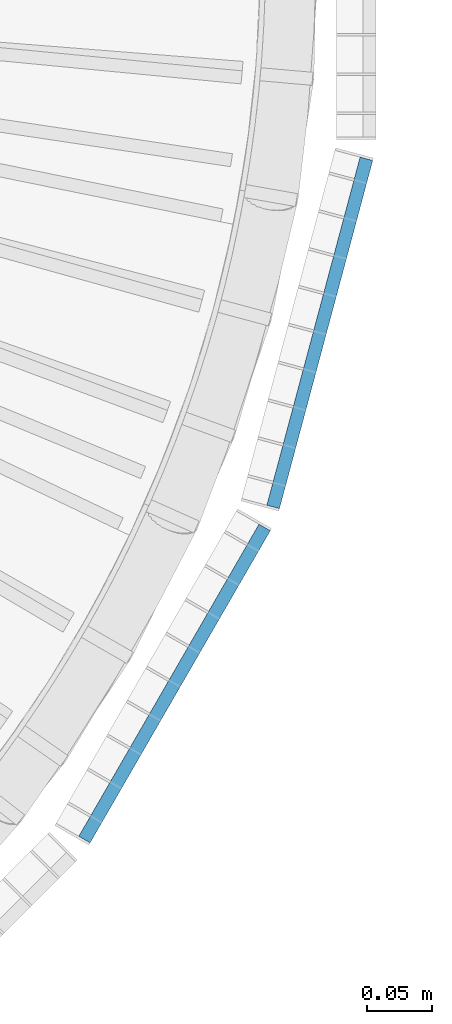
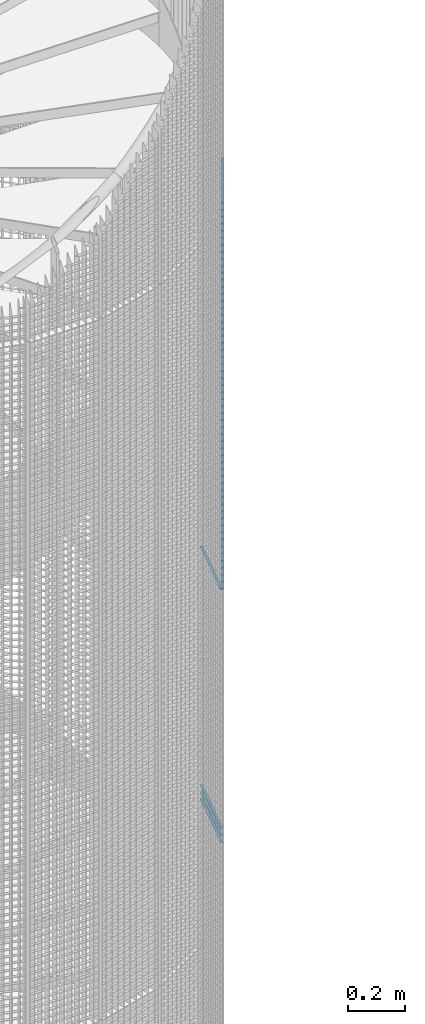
# One storey, part 248 of 1148: 60 beams, 2 elements without a shape of their own.
"""IFC2X3 building model written with IfcOpenShell, lengths in millimetres."""

import ifcopenshell
import ifcopenshell.guid

model = None  # the IFC model being written
_history = None  # IfcOwnerHistory: only IFC2X3 demands one
_inside = {}  # id of a spatial element -> (the spatial element, [elements in it])
_under = {}  # id of a project, library or spatial element -> (it, [spatial elements below it])
_declared = {}  # id of a project -> (the project, [libraries it declares])
_typed = {}  # id of a type object -> (the type object, [elements of that type])
_made_of = {}  # id of a material, layer set ... -> (it, [elements and type objects made of it])


def new_model(schema):
    """Start an empty IFC model of exactly this schema.

    Asked for "IFC4X3", IfcOpenShell would pick the latest addendum, in which some entities
    have other attributes; the version numbers below select the first issue.
    IFC2X3 requires an IfcOwnerHistory on every rooted entity: one is made here for all.
    """
    global model, _history
    if schema == "IFC4X3":
        model = ifcopenshell.file(schema_version=(4, 3, 0, 0))
    else:
        model = ifcopenshell.file(schema=schema)
    _inside.clear()
    _under.clear()
    _declared.clear()
    _typed.clear()
    _made_of.clear()
    _history = None
    if model.schema == "IFC2X3":
        org = make("IfcOrganization", Name="unknown")
        user = make(
            "IfcPersonAndOrganization",
            ThePerson=make("IfcPerson", FamilyName="unknown"),
            TheOrganization=org,
        )
        app = make(
            "IfcApplication",
            ApplicationDeveloper=org,
            Version="unknown",
            ApplicationFullName="unknown",
            ApplicationIdentifier="unknown",
        )
        _history = make(
            "IfcOwnerHistory",
            OwningUser=user,
            OwningApplication=app,
            ChangeAction="ADDED",
            CreationDate=0,
        )
    return model


def make(cls, **values):
    """One entity of the class cls with the attributes given. An attribute that is None is left unset."""
    return model.create_entity(
        cls, **{name: value for name, value in values.items() if value is not None}
    )


def rooted(cls, **values):
    """An entity with a GlobalId (a new one), such as an element, a storey or a relation."""
    return make(cls, GlobalId=ifcopenshell.guid.new(), OwnerHistory=_history, **values)


def si_unit(unit_type, name, prefix=None):
    """IfcSIUnit, for example si_unit("LENGTHUNIT", "METRE", prefix="MILLI")."""
    return make("IfcSIUnit", UnitType=unit_type, Prefix=prefix, Name=name)


def assignment(units):
    """IfcUnitAssignment: the units of a project."""
    return None if units is None else make("IfcUnitAssignment", Units=units)


def point(xyz):
    """IfcCartesianPoint."""
    return None if xyz is None else make("IfcCartesianPoint", Coordinates=xyz)


def direction(xyz):
    """IfcDirection."""
    return None if xyz is None else make("IfcDirection", DirectionRatios=xyz)


def frame(location, z_axis=None, x_axis=None):
    """IfcAxis2Placement3D, a coordinate frame: its origin and axes. An axis left out is left unset."""
    return make(
        "IfcAxis2Placement3D",
        Location=point(location),
        Axis=direction(z_axis),
        RefDirection=direction(x_axis),
    )


def frame_2d(location, x_axis=None):
    """IfcAxis2Placement2D, a coordinate frame in the plane: its origin and x axis."""
    return make(
        "IfcAxis2Placement2D", Location=point(location), RefDirection=direction(x_axis)
    )


def origin_with_axes():
    """The frame at (0, 0, 0) with the z axis (0, 0, 1) and the x axis (1, 0, 0) written out."""
    return frame((0.0, 0.0, 0.0), z_axis=(0.0, 0.0, 1.0), x_axis=(1.0, 0.0, 0.0))


def origin_2d_with_axis():
    """The frame at (0, 0) in the plane with the x axis (1, 0) written out."""
    return frame_2d((0.0, 0.0), x_axis=(1.0, 0.0))


def place(relative_to, where):
    """IfcLocalPlacement: puts the frame where relative to a parent placement (None: the world)."""
    return make(
        "IfcLocalPlacement", PlacementRelTo=relative_to, RelativePlacement=where
    )


def context(
    kind, dimensions, precision=None, world=None, true_north=None, identifier=None
):
    """IfcGeometricRepresentationContext, for example the 3D "Model" context."""
    return make(
        "IfcGeometricRepresentationContext",
        ContextIdentifier=identifier,
        ContextType=kind,
        CoordinateSpaceDimension=dimensions,
        Precision=precision,
        WorldCoordinateSystem=world,
        TrueNorth=true_north,
    )


def subcontext(parent, identifier, kind, view, scale=None):
    """IfcGeometricRepresentationSubContext, for example "Body" below "Model"."""
    return make(
        "IfcGeometricRepresentationSubContext",
        ContextIdentifier=identifier,
        ContextType=kind,
        ParentContext=parent,
        TargetScale=scale,
        TargetView=view,
    )


def project(units=None, contexts=None):
    """IfcProject with its units and contexts."""
    return rooted(
        "IfcProject",
        Name="project",
        RepresentationContexts=contexts,
        UnitsInContext=assignment(units),
    )


def spatial(cls, under=None, at=None, **own):
    """A site, building, storey or space (cls), placed at a placement, below another one or the project."""
    s = rooted(cls, ObjectPlacement=at, **own)
    if under is not None:
        _under.setdefault(under.id(), (under, []))[1].append(s)
    return s


def profile(cls, at=None, kind="AREA", **sizes):
    """A parametric profile (cls). Its sizes go by their IFC names, for example OverallWidth=200.0."""
    return make(cls, ProfileType=kind, Position=at, **sizes)


def rectangle(**sizes):
    """IfcRectangleProfileDef."""
    return profile("IfcRectangleProfileDef", **sizes)


def extrude(swept, where, along, depth):
    """IfcExtrudedAreaSolid: the profile swept, set in the frame where, extruded along a direction by depth."""
    return make(
        "IfcExtrudedAreaSolid",
        SweptArea=swept,
        Position=where,
        ExtrudedDirection=direction(along),
        Depth=depth,
    )


def shape(context_of_items, identifier, shape_type, items):
    """IfcShapeRepresentation: the items that make up one representation, for example the "Body"."""
    return make(
        "IfcShapeRepresentation",
        ContextOfItems=context_of_items,
        RepresentationIdentifier=identifier,
        RepresentationType=shape_type,
        Items=items,
    )


def material(Name=None, Category=None):
    """IfcMaterial."""
    return make("IfcMaterial", Name=Name, Category=Category)


def made_of(thing, what):
    """Note that an element or type object is made of a material, layer set ...; save() writes the relation."""
    if what is not None:
        _made_of.setdefault(what.id(), (what, []))[1].append(thing)
    return thing


def type_object(cls, material=None, **own):
    """A type object (cls), such as IfcWallType, which elements share."""
    return made_of(rooted(cls, **own), material)


def element(
    cls,
    number,
    at=None,
    inside=None,
    cuts=None,
    type_object=None,
    material=None,
    context=None,
    identifier="Body",
    shape_type=None,
    held_by="IfcProductDefinitionShape",
    body=None,
    shapes=None,
    **own,
):
    """One element of the class cls, such as IfcWall. Its Tag is "e" and its number.

    at: its placement. inside: the storey or other place that contains it. cuts: it is an
    opening in that element (IfcRelVoidsElement). A single representation is given by context,
    identifier, shape_type and body (its items); several are given by shapes. held_by: the class
    of the entity that holds the representations. save() writes the other relations.
    """
    e = rooted(cls, Tag="e%d" % number, ObjectPlacement=at, **own)
    if body is not None:
        shapes = [shape(context, identifier, shape_type, body)]
    if shapes is not None:
        e.Representation = make(held_by, Representations=shapes)
    if inside is not None:
        _inside.setdefault(inside.id(), (inside, []))[1].append(e)
    if cuts is not None:
        rooted(
            "IfcRelVoidsElement", RelatingBuildingElement=cuts, RelatedOpeningElement=e
        )
    if type_object is not None:
        _typed.setdefault(type_object.id(), (type_object, []))[1].append(e)
    return made_of(e, material)


def aggregate(whole, parts):
    """IfcRelAggregates: a whole, such as a stair, and the parts it consists of."""
    return rooted("IfcRelAggregates", RelatingObject=whole, RelatedObjects=parts)


def save(model, path):
    """Write the relations noted so far, then the file.

    IfcRelAggregates (storeys below a building ...), IfcRelContainedInSpatialStructure (elements
    in a storey), IfcRelDefinesByType, IfcRelAssociatesMaterial and IfcRelDeclares: one each for
    every whole, place, type object, material and project.
    """
    for whole, parts in _under.values():
        aggregate(whole, parts)
    for where, things in _inside.values():
        rooted(
            "IfcRelContainedInSpatialStructure",
            RelatedElements=things,
            RelatingStructure=where,
        )
    for kind, things in _typed.values():
        rooted("IfcRelDefinesByType", RelatedObjects=things, RelatingType=kind)
    for what, things in _made_of.values():
        rooted("IfcRelAssociatesMaterial", RelatedObjects=things, RelatingMaterial=what)
    for by, libraries in _declared.values():
        rooted("IfcRelDeclares", RelatingContext=by, RelatedDefinitions=libraries)
    model.write(path)


model = new_model("IFC2X3")

# Units and contexts
model_context = context("Model", 3, precision=1e-05, world=origin_with_axes())
body_context = subcontext(model_context, "Body", "Model", "MODEL_VIEW")
ifc_project = project(units=[si_unit("LENGTHUNIT", "METRE", prefix="MILLI"), si_unit("AREAUNIT", "SQUARE_METRE"), si_unit("VOLUMEUNIT", "CUBIC_METRE"), si_unit("MASSUNIT", "GRAM", prefix="KILO"), si_unit("TIMEUNIT", "SECOND"), si_unit("PLANEANGLEUNIT", "RADIAN"), si_unit("SOLIDANGLEUNIT", "STERADIAN"), si_unit("THERMODYNAMICTEMPERATUREUNIT", "DEGREE_CELSIUS"), si_unit("LUMINOUSINTENSITYUNIT", "LUMEN")], contexts=[model_context])

# Site, building, storey
site_placement = place(None, origin_with_axes())
site = spatial("IfcSite", under=ifc_project, at=site_placement, Name="Undefined", CompositionType="ELEMENT")
building_placement = place(site_placement, origin_with_axes())
building = spatial("IfcBuilding", under=site, at=building_placement, Name="Undefined", CompositionType="ELEMENT")
storey_placement = place(building_placement, origin_with_axes())
storey = spatial("IfcBuildingStorey", under=building, at=storey_placement, Name="Undefined", CompositionType="ELEMENT", Elevation=0.0)

# Assembly, beams
assembly_1_placement = place(storey_placement, origin_with_axes())
assembly_1 = element("IfcElementAssembly", 1, at=assembly_1_placement, inside=storey, Name="BORDURE", AssemblyPlace="NOTDEFINED", PredefinedType="NOTDEFINED")
ifc_material = material(Name="STEEL/S235JR")
beam_type = type_object("IfcBeamType", Name="PL2*10", PredefinedType="NOTDEFINED")
beam_1_placement = place(assembly_1_placement, frame((1039.82309522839, -421.483733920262, 3090.0), z_axis=(0.965925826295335, -0.258819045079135, 0.0), x_axis=(0.258819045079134, 0.965925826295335, 0.0)))
beam_1 = element("IfcBeam", 2, at=beam_1_placement, type_object=beam_type, material=ifc_material, Name="ENTRETOISE", context=body_context, shape_type="SweptSolid", body=[
    extrude(rectangle(XDim=2.0, YDim=10.0, at=origin_2d_with_axis()), frame((275.999999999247, 9.09494701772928e-13, 1.53210777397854e-14), z_axis=(-1.0, 0.0, 0.0), x_axis=(0.0, -1.0, 0.0)), (0.0, 0.0, 1.0), 276.0),
])
beam_2_placement = place(assembly_1_placement, frame((1039.82309522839, -421.483733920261, 3060.0), z_axis=(0.965925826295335, -0.258819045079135, 0.0), x_axis=(0.258819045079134, 0.965925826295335, 0.0)))
beam_2 = element("IfcBeam", 3, at=beam_2_placement, type_object=beam_type, material=ifc_material, Name="ENTRETOISE", context=body_context, shape_type="SweptSolid", body=[
    extrude(rectangle(XDim=2.0, YDim=10.0, at=origin_2d_with_axis()), frame((275.999999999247, 9.09494701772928e-13, 1.53210777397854e-14), z_axis=(-1.0, 0.0, 0.0), x_axis=(0.0, -1.0, 0.0)), (0.0, 0.0, 1.0), 276.0),
])
beam_3_placement = place(assembly_1_placement, frame((1039.82309522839, -421.483733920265, 4110.0), z_axis=(0.965925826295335, -0.258819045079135, 0.0), x_axis=(0.258819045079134, 0.965925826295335, 0.0)))
beam_3 = element("IfcBeam", 4, at=beam_3_placement, type_object=beam_type, material=ifc_material, Name="ENTRETOISE", context=body_context, shape_type="SweptSolid", body=[
    extrude(rectangle(XDim=2.0, YDim=10.0, at=origin_2d_with_axis()), frame((275.999999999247, 9.09494701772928e-13, 1.53210777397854e-14), z_axis=(-1.0, 0.0, 0.0), x_axis=(0.0, -1.0, 0.0)), (0.0, 0.0, 1.0), 276.0),
])
beam_4_placement = place(assembly_1_placement, frame((1039.82309522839, -421.48373392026, 3030.0), z_axis=(0.965925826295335, -0.258819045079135, 0.0), x_axis=(0.258819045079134, 0.965925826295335, 0.0)))
beam_4 = element("IfcBeam", 5, at=beam_4_placement, type_object=beam_type, material=ifc_material, Name="ENTRETOISE", context=body_context, shape_type="SweptSolid", body=[
    extrude(rectangle(XDim=2.0, YDim=10.0, at=origin_2d_with_axis()), frame((275.999999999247, 9.09494701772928e-13, 1.53210777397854e-14), z_axis=(-1.0, 0.0, 0.0), x_axis=(0.0, -1.0, 0.0)), (0.0, 0.0, 1.0), 276.0),
])
aggregate(assembly_1, [beam_1, beam_2, beam_3, beam_4])

assembly_2_placement = place(storey_placement, origin_with_axes())
assembly_2 = element("IfcElementAssembly", 6, at=assembly_2_placement, inside=storey, Name="BORDURE", AssemblyPlace="NOTDEFINED", PredefinedType="NOTDEFINED")
beam_5_placement = place(assembly_2_placement, frame((895.303964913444, -676.248044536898, 5970.0), z_axis=(0.866025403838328, -0.49999999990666, 0.0), x_axis=(0.49999999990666, 0.866025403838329, 0.0)))
beam_5 = element("IfcBeam", 7, at=beam_5_placement, type_object=beam_type, material=ifc_material, Name="ENTRETOISE", context=body_context, shape_type="SweptSolid", body=[
    extrude(rectangle(XDim=2.0, YDim=10.0, at=origin_2d_with_axis()), frame((275.999999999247, 9.09494701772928e-13, 1.53210777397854e-14), z_axis=(-1.0, 0.0, 0.0), x_axis=(0.0, -1.0, 0.0)), (0.0, 0.0, 1.0), 276.0),
])
beam_6_placement = place(assembly_2_placement, frame((895.303964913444, -676.248044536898, 5940.0), z_axis=(0.866025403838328, -0.49999999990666, 0.0), x_axis=(0.49999999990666, 0.866025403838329, 0.0)))
beam_6 = element("IfcBeam", 8, at=beam_6_placement, type_object=beam_type, material=ifc_material, Name="ENTRETOISE", context=body_context, shape_type="SweptSolid", body=[
    extrude(rectangle(XDim=2.0, YDim=10.0, at=origin_2d_with_axis()), frame((275.999999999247, 9.09494701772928e-13, 1.53210777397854e-14), z_axis=(-1.0, 0.0, 0.0), x_axis=(0.0, -1.0, 0.0)), (0.0, 0.0, 1.0), 276.0),
])
beam_7_placement = place(assembly_2_placement, frame((895.303964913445, -676.248044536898, 5910.0), z_axis=(0.866025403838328, -0.49999999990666, 0.0), x_axis=(0.49999999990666, 0.866025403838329, 0.0)))
beam_7 = element("IfcBeam", 9, at=beam_7_placement, type_object=beam_type, material=ifc_material, Name="ENTRETOISE", context=body_context, shape_type="SweptSolid", body=[
    extrude(rectangle(XDim=2.0, YDim=10.0, at=origin_2d_with_axis()), frame((275.999999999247, 9.09494701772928e-13, 1.53210777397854e-14), z_axis=(-1.0, 0.0, 0.0), x_axis=(0.0, -1.0, 0.0)), (0.0, 0.0, 1.0), 276.0),
])
beam_8_placement = place(assembly_2_placement, frame((895.303964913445, -676.248044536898, 5880.0), z_axis=(0.866025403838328, -0.49999999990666, 0.0), x_axis=(0.49999999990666, 0.866025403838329, 0.0)))
beam_8 = element("IfcBeam", 10, at=beam_8_placement, type_object=beam_type, material=ifc_material, Name="ENTRETOISE", context=body_context, shape_type="SweptSolid", body=[
    extrude(rectangle(XDim=2.0, YDim=10.0, at=origin_2d_with_axis()), frame((275.999999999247, 9.09494701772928e-13, 1.53210777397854e-14), z_axis=(-1.0, 0.0, 0.0), x_axis=(0.0, -1.0, 0.0)), (0.0, 0.0, 1.0), 276.0),
])
beam_9_placement = place(assembly_2_placement, frame((895.303964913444, -676.248044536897, 5850.0), z_axis=(0.866025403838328, -0.49999999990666, 0.0), x_axis=(0.49999999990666, 0.866025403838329, 0.0)))
beam_9 = element("IfcBeam", 11, at=beam_9_placement, type_object=beam_type, material=ifc_material, Name="ENTRETOISE", context=body_context, shape_type="SweptSolid", body=[
    extrude(rectangle(XDim=2.0, YDim=10.0, at=origin_2d_with_axis()), frame((275.999999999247, 9.09494701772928e-13, 1.53210777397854e-14), z_axis=(-1.0, 0.0, 0.0), x_axis=(0.0, -1.0, 0.0)), (0.0, 0.0, 1.0), 276.0),
])
beam_10_placement = place(assembly_2_placement, frame((895.303964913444, -676.248044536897, 5820.0), z_axis=(0.866025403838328, -0.49999999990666, 0.0), x_axis=(0.49999999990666, 0.866025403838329, 0.0)))
beam_10 = element("IfcBeam", 12, at=beam_10_placement, type_object=beam_type, material=ifc_material, Name="ENTRETOISE", context=body_context, shape_type="SweptSolid", body=[
    extrude(rectangle(XDim=2.0, YDim=10.0, at=origin_2d_with_axis()), frame((275.999999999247, 9.09494701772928e-13, 1.53210777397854e-14), z_axis=(-1.0, 0.0, 0.0), x_axis=(0.0, -1.0, 0.0)), (0.0, 0.0, 1.0), 276.0),
])
beam_11_placement = place(assembly_2_placement, frame((895.303964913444, -676.248044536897, 5790.0), z_axis=(0.866025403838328, -0.49999999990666, 0.0), x_axis=(0.49999999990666, 0.866025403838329, 0.0)))
beam_11 = element("IfcBeam", 13, at=beam_11_placement, type_object=beam_type, material=ifc_material, Name="ENTRETOISE", context=body_context, shape_type="SweptSolid", body=[
    extrude(rectangle(XDim=2.0, YDim=10.0, at=origin_2d_with_axis()), frame((275.999999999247, 9.09494701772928e-13, 1.53210777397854e-14), z_axis=(-1.0, 0.0, 0.0), x_axis=(0.0, -1.0, 0.0)), (0.0, 0.0, 1.0), 276.0),
])
beam_12_placement = place(assembly_2_placement, frame((895.303964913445, -676.248044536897, 5760.0), z_axis=(0.866025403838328, -0.49999999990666, 0.0), x_axis=(0.49999999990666, 0.866025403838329, 0.0)))
beam_12 = element("IfcBeam", 14, at=beam_12_placement, type_object=beam_type, material=ifc_material, Name="ENTRETOISE", context=body_context, shape_type="SweptSolid", body=[
    extrude(rectangle(XDim=2.0, YDim=10.0, at=origin_2d_with_axis()), frame((275.999999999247, 9.09494701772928e-13, 1.53210777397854e-14), z_axis=(-1.0, 0.0, 0.0), x_axis=(0.0, -1.0, 0.0)), (0.0, 0.0, 1.0), 276.0),
])
beam_13_placement = place(assembly_2_placement, frame((895.303964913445, -676.248044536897, 5730.0), z_axis=(0.866025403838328, -0.49999999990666, 0.0), x_axis=(0.49999999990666, 0.866025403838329, 0.0)))
beam_13 = element("IfcBeam", 15, at=beam_13_placement, type_object=beam_type, material=ifc_material, Name="ENTRETOISE", context=body_context, shape_type="SweptSolid", body=[
    extrude(rectangle(XDim=2.0, YDim=10.0, at=origin_2d_with_axis()), frame((275.999999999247, 9.09494701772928e-13, 1.53210777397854e-14), z_axis=(-1.0, 0.0, 0.0), x_axis=(0.0, -1.0, 0.0)), (0.0, 0.0, 1.0), 276.0),
])
beam_14_placement = place(assembly_2_placement, frame((895.303964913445, -676.248044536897, 5700.0), z_axis=(0.866025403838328, -0.49999999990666, 0.0), x_axis=(0.49999999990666, 0.866025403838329, 0.0)))
beam_14 = element("IfcBeam", 16, at=beam_14_placement, type_object=beam_type, material=ifc_material, Name="ENTRETOISE", context=body_context, shape_type="SweptSolid", body=[
    extrude(rectangle(XDim=2.0, YDim=10.0, at=origin_2d_with_axis()), frame((275.999999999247, 9.09494701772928e-13, 1.53210777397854e-14), z_axis=(-1.0, 0.0, 0.0), x_axis=(0.0, -1.0, 0.0)), (0.0, 0.0, 1.0), 276.0),
])
beam_15_placement = place(assembly_2_placement, frame((895.303964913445, -676.248044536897, 5670.0), z_axis=(0.866025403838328, -0.49999999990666, 0.0), x_axis=(0.49999999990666, 0.866025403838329, 0.0)))
beam_15 = element("IfcBeam", 17, at=beam_15_placement, type_object=beam_type, material=ifc_material, Name="ENTRETOISE", context=body_context, shape_type="SweptSolid", body=[
    extrude(rectangle(XDim=2.0, YDim=10.0, at=origin_2d_with_axis()), frame((275.999999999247, 9.09494701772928e-13, 1.53210777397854e-14), z_axis=(-1.0, 0.0, 0.0), x_axis=(0.0, -1.0, 0.0)), (0.0, 0.0, 1.0), 276.0),
])
beam_16_placement = place(assembly_2_placement, frame((895.303964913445, -676.248044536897, 5640.0), z_axis=(0.866025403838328, -0.49999999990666, 0.0), x_axis=(0.49999999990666, 0.866025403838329, 0.0)))
beam_16 = element("IfcBeam", 18, at=beam_16_placement, type_object=beam_type, material=ifc_material, Name="ENTRETOISE", context=body_context, shape_type="SweptSolid", body=[
    extrude(rectangle(XDim=2.0, YDim=10.0, at=origin_2d_with_axis()), frame((275.999999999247, 9.09494701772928e-13, 1.53210777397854e-14), z_axis=(-1.0, 0.0, 0.0), x_axis=(0.0, -1.0, 0.0)), (0.0, 0.0, 1.0), 276.0),
])
beam_17_placement = place(assembly_2_placement, frame((895.303964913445, -676.248044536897, 5610.0), z_axis=(0.866025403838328, -0.49999999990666, 0.0), x_axis=(0.49999999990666, 0.866025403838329, 0.0)))
beam_17 = element("IfcBeam", 19, at=beam_17_placement, type_object=beam_type, material=ifc_material, Name="ENTRETOISE", context=body_context, shape_type="SweptSolid", body=[
    extrude(rectangle(XDim=2.0, YDim=10.0, at=origin_2d_with_axis()), frame((275.999999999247, 9.09494701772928e-13, 1.53210777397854e-14), z_axis=(-1.0, 0.0, 0.0), x_axis=(0.0, -1.0, 0.0)), (0.0, 0.0, 1.0), 276.0),
])
beam_18_placement = place(assembly_2_placement, frame((895.303964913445, -676.248044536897, 5580.0), z_axis=(0.866025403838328, -0.49999999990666, 0.0), x_axis=(0.49999999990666, 0.866025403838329, 0.0)))
beam_18 = element("IfcBeam", 20, at=beam_18_placement, type_object=beam_type, material=ifc_material, Name="ENTRETOISE", context=body_context, shape_type="SweptSolid", body=[
    extrude(rectangle(XDim=2.0, YDim=10.0, at=origin_2d_with_axis()), frame((275.999999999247, 9.09494701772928e-13, 1.53210777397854e-14), z_axis=(-1.0, 0.0, 0.0), x_axis=(0.0, -1.0, 0.0)), (0.0, 0.0, 1.0), 276.0),
])
beam_19_placement = place(assembly_2_placement, frame((895.303964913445, -676.248044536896, 5550.0), z_axis=(0.866025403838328, -0.49999999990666, 0.0), x_axis=(0.49999999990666, 0.866025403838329, 0.0)))
beam_19 = element("IfcBeam", 21, at=beam_19_placement, type_object=beam_type, material=ifc_material, Name="ENTRETOISE", context=body_context, shape_type="SweptSolid", body=[
    extrude(rectangle(XDim=2.0, YDim=10.0, at=origin_2d_with_axis()), frame((275.999999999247, 9.09494701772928e-13, 1.53210777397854e-14), z_axis=(-1.0, 0.0, 0.0), x_axis=(0.0, -1.0, 0.0)), (0.0, 0.0, 1.0), 276.0),
])
beam_20_placement = place(assembly_2_placement, frame((895.303964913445, -676.248044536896, 5520.0), z_axis=(0.866025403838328, -0.49999999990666, 0.0), x_axis=(0.49999999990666, 0.866025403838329, 0.0)))
beam_20 = element("IfcBeam", 22, at=beam_20_placement, type_object=beam_type, material=ifc_material, Name="ENTRETOISE", context=body_context, shape_type="SweptSolid", body=[
    extrude(rectangle(XDim=2.0, YDim=10.0, at=origin_2d_with_axis()), frame((275.999999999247, 9.09494701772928e-13, 1.53210777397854e-14), z_axis=(-1.0, 0.0, 0.0), x_axis=(0.0, -1.0, 0.0)), (0.0, 0.0, 1.0), 276.0),
])
beam_21_placement = place(assembly_2_placement, frame((895.303964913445, -676.248044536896, 5490.0), z_axis=(0.866025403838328, -0.49999999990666, 0.0), x_axis=(0.49999999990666, 0.866025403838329, 0.0)))
beam_21 = element("IfcBeam", 23, at=beam_21_placement, type_object=beam_type, material=ifc_material, Name="ENTRETOISE", context=body_context, shape_type="SweptSolid", body=[
    extrude(rectangle(XDim=2.0, YDim=10.0, at=origin_2d_with_axis()), frame((275.999999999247, 9.09494701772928e-13, 1.53210777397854e-14), z_axis=(-1.0, 0.0, 0.0), x_axis=(0.0, -1.0, 0.0)), (0.0, 0.0, 1.0), 276.0),
])
beam_22_placement = place(assembly_2_placement, frame((895.303964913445, -676.248044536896, 5460.0), z_axis=(0.866025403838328, -0.49999999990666, 0.0), x_axis=(0.49999999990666, 0.866025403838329, 0.0)))
beam_22 = element("IfcBeam", 24, at=beam_22_placement, type_object=beam_type, material=ifc_material, Name="ENTRETOISE", context=body_context, shape_type="SweptSolid", body=[
    extrude(rectangle(XDim=2.0, YDim=10.0, at=origin_2d_with_axis()), frame((275.999999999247, 9.09494701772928e-13, 1.53210777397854e-14), z_axis=(-1.0, 0.0, 0.0), x_axis=(0.0, -1.0, 0.0)), (0.0, 0.0, 1.0), 276.0),
])
beam_23_placement = place(assembly_2_placement, frame((895.303964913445, -676.248044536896, 5430.0), z_axis=(0.866025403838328, -0.49999999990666, 0.0), x_axis=(0.49999999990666, 0.866025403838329, 0.0)))
beam_23 = element("IfcBeam", 25, at=beam_23_placement, type_object=beam_type, material=ifc_material, Name="ENTRETOISE", context=body_context, shape_type="SweptSolid", body=[
    extrude(rectangle(XDim=2.0, YDim=10.0, at=origin_2d_with_axis()), frame((275.999999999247, 9.09494701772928e-13, 1.53210777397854e-14), z_axis=(-1.0, 0.0, 0.0), x_axis=(0.0, -1.0, 0.0)), (0.0, 0.0, 1.0), 276.0),
])
beam_24_placement = place(assembly_2_placement, frame((895.303964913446, -676.248044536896, 5400.0), z_axis=(0.866025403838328, -0.49999999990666, 0.0), x_axis=(0.49999999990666, 0.866025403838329, 0.0)))
beam_24 = element("IfcBeam", 26, at=beam_24_placement, type_object=beam_type, material=ifc_material, Name="ENTRETOISE", context=body_context, shape_type="SweptSolid", body=[
    extrude(rectangle(XDim=2.0, YDim=10.0, at=origin_2d_with_axis()), frame((275.999999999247, 9.09494701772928e-13, 1.53210777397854e-14), z_axis=(-1.0, 0.0, 0.0), x_axis=(0.0, -1.0, 0.0)), (0.0, 0.0, 1.0), 276.0),
])
beam_25_placement = place(assembly_2_placement, frame((895.303964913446, -676.248044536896, 5370.0), z_axis=(0.866025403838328, -0.49999999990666, 0.0), x_axis=(0.49999999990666, 0.866025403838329, 0.0)))
beam_25 = element("IfcBeam", 27, at=beam_25_placement, type_object=beam_type, material=ifc_material, Name="ENTRETOISE", context=body_context, shape_type="SweptSolid", body=[
    extrude(rectangle(XDim=2.0, YDim=10.0, at=origin_2d_with_axis()), frame((275.999999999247, 9.09494701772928e-13, 1.53210777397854e-14), z_axis=(-1.0, 0.0, 0.0), x_axis=(0.0, -1.0, 0.0)), (0.0, 0.0, 1.0), 276.0),
])
beam_26_placement = place(assembly_2_placement, frame((895.303964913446, -676.248044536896, 5340.0), z_axis=(0.866025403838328, -0.49999999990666, 0.0), x_axis=(0.49999999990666, 0.866025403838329, 0.0)))
beam_26 = element("IfcBeam", 28, at=beam_26_placement, type_object=beam_type, material=ifc_material, Name="ENTRETOISE", context=body_context, shape_type="SweptSolid", body=[
    extrude(rectangle(XDim=2.0, YDim=10.0, at=origin_2d_with_axis()), frame((275.999999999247, 9.09494701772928e-13, 1.53210777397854e-14), z_axis=(-1.0, 0.0, 0.0), x_axis=(0.0, -1.0, 0.0)), (0.0, 0.0, 1.0), 276.0),
])
beam_27_placement = place(assembly_2_placement, frame((895.303964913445, -676.248044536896, 5310.0), z_axis=(0.866025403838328, -0.49999999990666, 0.0), x_axis=(0.49999999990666, 0.866025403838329, 0.0)))
beam_27 = element("IfcBeam", 29, at=beam_27_placement, type_object=beam_type, material=ifc_material, Name="ENTRETOISE", context=body_context, shape_type="SweptSolid", body=[
    extrude(rectangle(XDim=2.0, YDim=10.0, at=origin_2d_with_axis()), frame((275.999999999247, 9.09494701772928e-13, 1.53210777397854e-14), z_axis=(-1.0, 0.0, 0.0), x_axis=(0.0, -1.0, 0.0)), (0.0, 0.0, 1.0), 276.0),
])
beam_28_placement = place(assembly_2_placement, frame((895.303964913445, -676.248044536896, 5280.0), z_axis=(0.866025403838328, -0.49999999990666, 0.0), x_axis=(0.49999999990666, 0.866025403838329, 0.0)))
beam_28 = element("IfcBeam", 30, at=beam_28_placement, type_object=beam_type, material=ifc_material, Name="ENTRETOISE", context=body_context, shape_type="SweptSolid", body=[
    extrude(rectangle(XDim=2.0, YDim=10.0, at=origin_2d_with_axis()), frame((275.999999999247, 9.09494701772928e-13, 1.53210777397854e-14), z_axis=(-1.0, 0.0, 0.0), x_axis=(0.0, -1.0, 0.0)), (0.0, 0.0, 1.0), 276.0),
])
beam_29_placement = place(assembly_2_placement, frame((895.303964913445, -676.248044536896, 5250.0), z_axis=(0.866025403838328, -0.49999999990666, 0.0), x_axis=(0.49999999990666, 0.866025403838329, 0.0)))
beam_29 = element("IfcBeam", 31, at=beam_29_placement, type_object=beam_type, material=ifc_material, Name="ENTRETOISE", context=body_context, shape_type="SweptSolid", body=[
    extrude(rectangle(XDim=2.0, YDim=10.0, at=origin_2d_with_axis()), frame((275.999999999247, 9.09494701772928e-13, 1.53210777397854e-14), z_axis=(-1.0, 0.0, 0.0), x_axis=(0.0, -1.0, 0.0)), (0.0, 0.0, 1.0), 276.0),
])
beam_30_placement = place(assembly_2_placement, frame((895.303964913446, -676.248044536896, 5220.0), z_axis=(0.866025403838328, -0.49999999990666, 0.0), x_axis=(0.49999999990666, 0.866025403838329, 0.0)))
beam_30 = element("IfcBeam", 32, at=beam_30_placement, type_object=beam_type, material=ifc_material, Name="ENTRETOISE", context=body_context, shape_type="SweptSolid", body=[
    extrude(rectangle(XDim=2.0, YDim=10.0, at=origin_2d_with_axis()), frame((275.999999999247, 9.09494701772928e-13, 1.53210777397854e-14), z_axis=(-1.0, 0.0, 0.0), x_axis=(0.0, -1.0, 0.0)), (0.0, 0.0, 1.0), 276.0),
])
beam_31_placement = place(assembly_2_placement, frame((895.303964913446, -676.248044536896, 5190.0), z_axis=(0.866025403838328, -0.49999999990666, 0.0), x_axis=(0.49999999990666, 0.866025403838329, 0.0)))
beam_31 = element("IfcBeam", 33, at=beam_31_placement, type_object=beam_type, material=ifc_material, Name="ENTRETOISE", context=body_context, shape_type="SweptSolid", body=[
    extrude(rectangle(XDim=2.0, YDim=10.0, at=origin_2d_with_axis()), frame((275.999999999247, 9.09494701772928e-13, 1.53210777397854e-14), z_axis=(-1.0, 0.0, 0.0), x_axis=(0.0, -1.0, 0.0)), (0.0, 0.0, 1.0), 276.0),
])
beam_32_placement = place(assembly_2_placement, frame((895.303964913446, -676.248044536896, 5160.0), z_axis=(0.866025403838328, -0.49999999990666, 0.0), x_axis=(0.49999999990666, 0.866025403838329, 0.0)))
beam_32 = element("IfcBeam", 34, at=beam_32_placement, type_object=beam_type, material=ifc_material, Name="ENTRETOISE", context=body_context, shape_type="SweptSolid", body=[
    extrude(rectangle(XDim=2.0, YDim=10.0, at=origin_2d_with_axis()), frame((275.999999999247, 9.09494701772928e-13, 1.53210777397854e-14), z_axis=(-1.0, 0.0, 0.0), x_axis=(0.0, -1.0, 0.0)), (0.0, 0.0, 1.0), 276.0),
])
beam_33_placement = place(assembly_2_placement, frame((895.303964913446, -676.248044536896, 5130.0), z_axis=(0.866025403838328, -0.49999999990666, 0.0), x_axis=(0.49999999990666, 0.866025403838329, 0.0)))
beam_33 = element("IfcBeam", 35, at=beam_33_placement, type_object=beam_type, material=ifc_material, Name="ENTRETOISE", context=body_context, shape_type="SweptSolid", body=[
    extrude(rectangle(XDim=2.0, YDim=10.0, at=origin_2d_with_axis()), frame((275.999999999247, 9.09494701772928e-13, 1.53210777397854e-14), z_axis=(-1.0, 0.0, 0.0), x_axis=(0.0, -1.0, 0.0)), (0.0, 0.0, 1.0), 276.0),
])
beam_34_placement = place(assembly_2_placement, frame((895.303964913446, -676.248044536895, 5100.0), z_axis=(0.866025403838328, -0.49999999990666, 0.0), x_axis=(0.49999999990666, 0.866025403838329, 0.0)))
beam_34 = element("IfcBeam", 36, at=beam_34_placement, type_object=beam_type, material=ifc_material, Name="ENTRETOISE", context=body_context, shape_type="SweptSolid", body=[
    extrude(rectangle(XDim=2.0, YDim=10.0, at=origin_2d_with_axis()), frame((275.999999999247, 9.09494701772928e-13, 1.53210777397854e-14), z_axis=(-1.0, 0.0, 0.0), x_axis=(0.0, -1.0, 0.0)), (0.0, 0.0, 1.0), 276.0),
])
beam_35_placement = place(assembly_2_placement, frame((895.303964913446, -676.248044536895, 5070.0), z_axis=(0.866025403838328, -0.49999999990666, 0.0), x_axis=(0.49999999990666, 0.866025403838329, 0.0)))
beam_35 = element("IfcBeam", 37, at=beam_35_placement, type_object=beam_type, material=ifc_material, Name="ENTRETOISE", context=body_context, shape_type="SweptSolid", body=[
    extrude(rectangle(XDim=2.0, YDim=10.0, at=origin_2d_with_axis()), frame((275.999999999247, 9.09494701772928e-13, 1.53210777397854e-14), z_axis=(-1.0, 0.0, 0.0), x_axis=(0.0, -1.0, 0.0)), (0.0, 0.0, 1.0), 276.0),
])
beam_36_placement = place(assembly_2_placement, frame((895.303964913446, -676.248044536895, 5040.0), z_axis=(0.866025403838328, -0.49999999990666, 0.0), x_axis=(0.49999999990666, 0.866025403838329, 0.0)))
beam_36 = element("IfcBeam", 38, at=beam_36_placement, type_object=beam_type, material=ifc_material, Name="ENTRETOISE", context=body_context, shape_type="SweptSolid", body=[
    extrude(rectangle(XDim=2.0, YDim=10.0, at=origin_2d_with_axis()), frame((275.999999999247, 9.09494701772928e-13, 1.53210777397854e-14), z_axis=(-1.0, 0.0, 0.0), x_axis=(0.0, -1.0, 0.0)), (0.0, 0.0, 1.0), 276.0),
])
beam_37_placement = place(assembly_2_placement, frame((895.303964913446, -676.248044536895, 5010.0), z_axis=(0.866025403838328, -0.49999999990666, 0.0), x_axis=(0.49999999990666, 0.866025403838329, 0.0)))
beam_37 = element("IfcBeam", 39, at=beam_37_placement, type_object=beam_type, material=ifc_material, Name="ENTRETOISE", context=body_context, shape_type="SweptSolid", body=[
    extrude(rectangle(XDim=2.0, YDim=10.0, at=origin_2d_with_axis()), frame((275.999999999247, 9.09494701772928e-13, 1.53210777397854e-14), z_axis=(-1.0, 0.0, 0.0), x_axis=(0.0, -1.0, 0.0)), (0.0, 0.0, 1.0), 276.0),
])
beam_38_placement = place(assembly_2_placement, frame((895.303964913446, -676.248044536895, 4980.0), z_axis=(0.866025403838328, -0.49999999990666, 0.0), x_axis=(0.49999999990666, 0.866025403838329, 0.0)))
beam_38 = element("IfcBeam", 40, at=beam_38_placement, type_object=beam_type, material=ifc_material, Name="ENTRETOISE", context=body_context, shape_type="SweptSolid", body=[
    extrude(rectangle(XDim=2.0, YDim=10.0, at=origin_2d_with_axis()), frame((275.999999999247, 9.09494701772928e-13, 1.53210777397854e-14), z_axis=(-1.0, 0.0, 0.0), x_axis=(0.0, -1.0, 0.0)), (0.0, 0.0, 1.0), 276.0),
])
beam_39_placement = place(assembly_2_placement, frame((895.303964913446, -676.248044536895, 4950.0), z_axis=(0.866025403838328, -0.49999999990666, 0.0), x_axis=(0.49999999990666, 0.866025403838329, 0.0)))
beam_39 = element("IfcBeam", 41, at=beam_39_placement, type_object=beam_type, material=ifc_material, Name="ENTRETOISE", context=body_context, shape_type="SweptSolid", body=[
    extrude(rectangle(XDim=2.0, YDim=10.0, at=origin_2d_with_axis()), frame((275.999999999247, 9.09494701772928e-13, 1.53210777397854e-14), z_axis=(-1.0, 0.0, 0.0), x_axis=(0.0, -1.0, 0.0)), (0.0, 0.0, 1.0), 276.0),
])
beam_40_placement = place(assembly_2_placement, frame((895.303964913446, -676.248044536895, 4920.0), z_axis=(0.866025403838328, -0.49999999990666, 0.0), x_axis=(0.49999999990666, 0.866025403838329, 0.0)))
beam_40 = element("IfcBeam", 42, at=beam_40_placement, type_object=beam_type, material=ifc_material, Name="ENTRETOISE", context=body_context, shape_type="SweptSolid", body=[
    extrude(rectangle(XDim=2.0, YDim=10.0, at=origin_2d_with_axis()), frame((275.999999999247, 9.09494701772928e-13, 1.53210777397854e-14), z_axis=(-1.0, 0.0, 0.0), x_axis=(0.0, -1.0, 0.0)), (0.0, 0.0, 1.0), 276.0),
])
beam_41_placement = place(assembly_2_placement, frame((895.303964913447, -676.248044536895, 4890.0), z_axis=(0.866025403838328, -0.49999999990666, 0.0), x_axis=(0.49999999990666, 0.866025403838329, 0.0)))
beam_41 = element("IfcBeam", 43, at=beam_41_placement, type_object=beam_type, material=ifc_material, Name="ENTRETOISE", context=body_context, shape_type="SweptSolid", body=[
    extrude(rectangle(XDim=2.0, YDim=10.0, at=origin_2d_with_axis()), frame((275.999999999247, 9.09494701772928e-13, 1.53210777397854e-14), z_axis=(-1.0, 0.0, 0.0), x_axis=(0.0, -1.0, 0.0)), (0.0, 0.0, 1.0), 276.0),
])
beam_42_placement = place(assembly_2_placement, frame((895.303964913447, -676.248044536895, 4860.0), z_axis=(0.866025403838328, -0.49999999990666, 0.0), x_axis=(0.49999999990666, 0.866025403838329, 0.0)))
beam_42 = element("IfcBeam", 44, at=beam_42_placement, type_object=beam_type, material=ifc_material, Name="ENTRETOISE", context=body_context, shape_type="SweptSolid", body=[
    extrude(rectangle(XDim=2.0, YDim=10.0, at=origin_2d_with_axis()), frame((275.999999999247, 9.09494701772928e-13, 1.53210777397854e-14), z_axis=(-1.0, 0.0, 0.0), x_axis=(0.0, -1.0, 0.0)), (0.0, 0.0, 1.0), 276.0),
])
beam_43_placement = place(assembly_2_placement, frame((895.303964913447, -676.248044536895, 4830.0), z_axis=(0.866025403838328, -0.49999999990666, 0.0), x_axis=(0.49999999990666, 0.866025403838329, 0.0)))
beam_43 = element("IfcBeam", 45, at=beam_43_placement, type_object=beam_type, material=ifc_material, Name="ENTRETOISE", context=body_context, shape_type="SweptSolid", body=[
    extrude(rectangle(XDim=2.0, YDim=10.0, at=origin_2d_with_axis()), frame((275.999999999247, 9.09494701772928e-13, 1.53210777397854e-14), z_axis=(-1.0, 0.0, 0.0), x_axis=(0.0, -1.0, 0.0)), (0.0, 0.0, 1.0), 276.0),
])
beam_44_placement = place(assembly_2_placement, frame((895.303964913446, -676.248044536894, 4800.0), z_axis=(0.866025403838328, -0.49999999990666, 0.0), x_axis=(0.49999999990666, 0.866025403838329, 0.0)))
beam_44 = element("IfcBeam", 46, at=beam_44_placement, type_object=beam_type, material=ifc_material, Name="ENTRETOISE", context=body_context, shape_type="SweptSolid", body=[
    extrude(rectangle(XDim=2.0, YDim=10.0, at=origin_2d_with_axis()), frame((275.999999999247, 9.09494701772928e-13, 1.53210777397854e-14), z_axis=(-1.0, 0.0, 0.0), x_axis=(0.0, -1.0, 0.0)), (0.0, 0.0, 1.0), 276.0),
])
beam_45_placement = place(assembly_2_placement, frame((895.303964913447, -676.248044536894, 4770.0), z_axis=(0.866025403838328, -0.49999999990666, 0.0), x_axis=(0.49999999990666, 0.866025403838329, 0.0)))
beam_45 = element("IfcBeam", 47, at=beam_45_placement, type_object=beam_type, material=ifc_material, Name="ENTRETOISE", context=body_context, shape_type="SweptSolid", body=[
    extrude(rectangle(XDim=2.0, YDim=10.0, at=origin_2d_with_axis()), frame((275.999999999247, 9.09494701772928e-13, 1.53210777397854e-14), z_axis=(-1.0, 0.0, 0.0), x_axis=(0.0, -1.0, 0.0)), (0.0, 0.0, 1.0), 276.0),
])
beam_46_placement = place(assembly_2_placement, frame((895.303964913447, -676.248044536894, 4740.0), z_axis=(0.866025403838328, -0.49999999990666, 0.0), x_axis=(0.49999999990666, 0.866025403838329, 0.0)))
beam_46 = element("IfcBeam", 48, at=beam_46_placement, type_object=beam_type, material=ifc_material, Name="ENTRETOISE", context=body_context, shape_type="SweptSolid", body=[
    extrude(rectangle(XDim=2.0, YDim=10.0, at=origin_2d_with_axis()), frame((275.999999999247, 9.09494701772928e-13, 1.53210777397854e-14), z_axis=(-1.0, 0.0, 0.0), x_axis=(0.0, -1.0, 0.0)), (0.0, 0.0, 1.0), 276.0),
])
beam_47_placement = place(assembly_2_placement, frame((895.303964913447, -676.248044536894, 4710.0), z_axis=(0.866025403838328, -0.49999999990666, 0.0), x_axis=(0.49999999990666, 0.866025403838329, 0.0)))
beam_47 = element("IfcBeam", 49, at=beam_47_placement, type_object=beam_type, material=ifc_material, Name="ENTRETOISE", context=body_context, shape_type="SweptSolid", body=[
    extrude(rectangle(XDim=2.0, YDim=10.0, at=origin_2d_with_axis()), frame((275.999999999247, 9.09494701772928e-13, 1.53210777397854e-14), z_axis=(-1.0, 0.0, 0.0), x_axis=(0.0, -1.0, 0.0)), (0.0, 0.0, 1.0), 276.0),
])
beam_48_placement = place(assembly_2_placement, frame((895.303964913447, -676.248044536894, 4680.0), z_axis=(0.866025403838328, -0.49999999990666, 0.0), x_axis=(0.49999999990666, 0.866025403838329, 0.0)))
beam_48 = element("IfcBeam", 50, at=beam_48_placement, type_object=beam_type, material=ifc_material, Name="ENTRETOISE", context=body_context, shape_type="SweptSolid", body=[
    extrude(rectangle(XDim=2.0, YDim=10.0, at=origin_2d_with_axis()), frame((275.999999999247, 9.09494701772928e-13, 1.53210777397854e-14), z_axis=(-1.0, 0.0, 0.0), x_axis=(0.0, -1.0, 0.0)), (0.0, 0.0, 1.0), 276.0),
])
beam_49_placement = place(assembly_2_placement, frame((895.303964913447, -676.248044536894, 4650.0), z_axis=(0.866025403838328, -0.49999999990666, 0.0), x_axis=(0.49999999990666, 0.866025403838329, 0.0)))
beam_49 = element("IfcBeam", 51, at=beam_49_placement, type_object=beam_type, material=ifc_material, Name="ENTRETOISE", context=body_context, shape_type="SweptSolid", body=[
    extrude(rectangle(XDim=2.0, YDim=10.0, at=origin_2d_with_axis()), frame((275.999999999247, 9.09494701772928e-13, 1.53210777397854e-14), z_axis=(-1.0, 0.0, 0.0), x_axis=(0.0, -1.0, 0.0)), (0.0, 0.0, 1.0), 276.0),
])
beam_50_placement = place(assembly_2_placement, frame((895.303964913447, -676.248044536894, 4620.0), z_axis=(0.866025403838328, -0.49999999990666, 0.0), x_axis=(0.49999999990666, 0.866025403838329, 0.0)))
beam_50 = element("IfcBeam", 52, at=beam_50_placement, type_object=beam_type, material=ifc_material, Name="ENTRETOISE", context=body_context, shape_type="SweptSolid", body=[
    extrude(rectangle(XDim=2.0, YDim=10.0, at=origin_2d_with_axis()), frame((275.999999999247, 9.09494701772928e-13, 1.53210777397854e-14), z_axis=(-1.0, 0.0, 0.0), x_axis=(0.0, -1.0, 0.0)), (0.0, 0.0, 1.0), 276.0),
])
beam_51_placement = place(assembly_2_placement, frame((895.303964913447, -676.248044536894, 4590.0), z_axis=(0.866025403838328, -0.49999999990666, 0.0), x_axis=(0.49999999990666, 0.866025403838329, 0.0)))
beam_51 = element("IfcBeam", 53, at=beam_51_placement, type_object=beam_type, material=ifc_material, Name="ENTRETOISE", context=body_context, shape_type="SweptSolid", body=[
    extrude(rectangle(XDim=2.0, YDim=10.0, at=origin_2d_with_axis()), frame((275.999999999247, 9.09494701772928e-13, 1.53210777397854e-14), z_axis=(-1.0, 0.0, 0.0), x_axis=(0.0, -1.0, 0.0)), (0.0, 0.0, 1.0), 276.0),
])
beam_52_placement = place(assembly_2_placement, frame((895.303964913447, -676.248044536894, 4560.0), z_axis=(0.866025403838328, -0.49999999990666, 0.0), x_axis=(0.49999999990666, 0.866025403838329, 0.0)))
beam_52 = element("IfcBeam", 54, at=beam_52_placement, type_object=beam_type, material=ifc_material, Name="ENTRETOISE", context=body_context, shape_type="SweptSolid", body=[
    extrude(rectangle(XDim=2.0, YDim=10.0, at=origin_2d_with_axis()), frame((275.999999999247, 9.09494701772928e-13, 1.53210777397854e-14), z_axis=(-1.0, 0.0, 0.0), x_axis=(0.0, -1.0, 0.0)), (0.0, 0.0, 1.0), 276.0),
])
beam_53_placement = place(assembly_2_placement, frame((895.303964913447, -676.248044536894, 4530.0), z_axis=(0.866025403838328, -0.49999999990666, 0.0), x_axis=(0.49999999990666, 0.866025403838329, 0.0)))
beam_53 = element("IfcBeam", 55, at=beam_53_placement, type_object=beam_type, material=ifc_material, Name="ENTRETOISE", context=body_context, shape_type="SweptSolid", body=[
    extrude(rectangle(XDim=2.0, YDim=10.0, at=origin_2d_with_axis()), frame((275.999999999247, 9.09494701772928e-13, 1.53210777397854e-14), z_axis=(-1.0, 0.0, 0.0), x_axis=(0.0, -1.0, 0.0)), (0.0, 0.0, 1.0), 276.0),
])
beam_54_placement = place(assembly_2_placement, frame((895.303964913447, -676.248044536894, 4500.0), z_axis=(0.866025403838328, -0.49999999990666, 0.0), x_axis=(0.49999999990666, 0.866025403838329, 0.0)))
beam_54 = element("IfcBeam", 56, at=beam_54_placement, type_object=beam_type, material=ifc_material, Name="ENTRETOISE", context=body_context, shape_type="SweptSolid", body=[
    extrude(rectangle(XDim=2.0, YDim=10.0, at=origin_2d_with_axis()), frame((275.999999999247, 9.09494701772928e-13, 1.53210777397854e-14), z_axis=(-1.0, 0.0, 0.0), x_axis=(0.0, -1.0, 0.0)), (0.0, 0.0, 1.0), 276.0),
])
beam_55_placement = place(assembly_2_placement, frame((895.303964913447, -676.248044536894, 4470.0), z_axis=(0.866025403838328, -0.49999999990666, 0.0), x_axis=(0.49999999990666, 0.866025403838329, 0.0)))
beam_55 = element("IfcBeam", 57, at=beam_55_placement, type_object=beam_type, material=ifc_material, Name="ENTRETOISE", context=body_context, shape_type="SweptSolid", body=[
    extrude(rectangle(XDim=2.0, YDim=10.0, at=origin_2d_with_axis()), frame((275.999999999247, 9.09494701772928e-13, 1.53210777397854e-14), z_axis=(-1.0, 0.0, 0.0), x_axis=(0.0, -1.0, 0.0)), (0.0, 0.0, 1.0), 276.0),
])
beam_56_placement = place(assembly_2_placement, frame((895.303964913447, -676.248044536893, 4440.0), z_axis=(0.866025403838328, -0.49999999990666, 0.0), x_axis=(0.49999999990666, 0.866025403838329, 0.0)))
beam_56 = element("IfcBeam", 58, at=beam_56_placement, type_object=beam_type, material=ifc_material, Name="ENTRETOISE", context=body_context, shape_type="SweptSolid", body=[
    extrude(rectangle(XDim=2.0, YDim=10.0, at=origin_2d_with_axis()), frame((275.999999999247, 9.09494701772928e-13, 1.53210777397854e-14), z_axis=(-1.0, 0.0, 0.0), x_axis=(0.0, -1.0, 0.0)), (0.0, 0.0, 1.0), 276.0),
])
beam_57_placement = place(assembly_2_placement, frame((895.303964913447, -676.248044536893, 4410.0), z_axis=(0.866025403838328, -0.49999999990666, 0.0), x_axis=(0.49999999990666, 0.866025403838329, 0.0)))
beam_57 = element("IfcBeam", 59, at=beam_57_placement, type_object=beam_type, material=ifc_material, Name="ENTRETOISE", context=body_context, shape_type="SweptSolid", body=[
    extrude(rectangle(XDim=2.0, YDim=10.0, at=origin_2d_with_axis()), frame((275.999999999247, 9.09494701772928e-13, 1.53210777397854e-14), z_axis=(-1.0, 0.0, 0.0), x_axis=(0.0, -1.0, 0.0)), (0.0, 0.0, 1.0), 276.0),
])
beam_58_placement = place(assembly_2_placement, frame((895.303964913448, -676.248044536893, 4380.0), z_axis=(0.866025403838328, -0.49999999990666, 0.0), x_axis=(0.49999999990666, 0.866025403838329, 0.0)))
beam_58 = element("IfcBeam", 60, at=beam_58_placement, type_object=beam_type, material=ifc_material, Name="ENTRETOISE", context=body_context, shape_type="SweptSolid", body=[
    extrude(rectangle(XDim=2.0, YDim=10.0, at=origin_2d_with_axis()), frame((275.999999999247, 9.09494701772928e-13, 1.53210777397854e-14), z_axis=(-1.0, 0.0, 0.0), x_axis=(0.0, -1.0, 0.0)), (0.0, 0.0, 1.0), 276.0),
])
beam_59_placement = place(assembly_2_placement, frame((895.303964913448, -676.248044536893, 4350.0), z_axis=(0.866025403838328, -0.49999999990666, 0.0), x_axis=(0.49999999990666, 0.866025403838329, 0.0)))
beam_59 = element("IfcBeam", 61, at=beam_59_placement, type_object=beam_type, material=ifc_material, Name="ENTRETOISE", context=body_context, shape_type="SweptSolid", body=[
    extrude(rectangle(XDim=2.0, YDim=10.0, at=origin_2d_with_axis()), frame((275.999999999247, 9.09494701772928e-13, 1.53210777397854e-14), z_axis=(-1.0, 0.0, 0.0), x_axis=(0.0, -1.0, 0.0)), (0.0, 0.0, 1.0), 276.0),
])
beam_60_placement = place(assembly_2_placement, frame((895.303964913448, -676.248044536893, 4320.0), z_axis=(0.866025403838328, -0.49999999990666, 0.0), x_axis=(0.49999999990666, 0.866025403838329, 0.0)))
beam_60 = element("IfcBeam", 62, at=beam_60_placement, type_object=beam_type, material=ifc_material, Name="ENTRETOISE", context=body_context, shape_type="SweptSolid", body=[
    extrude(rectangle(XDim=2.0, YDim=10.0, at=origin_2d_with_axis()), frame((275.999999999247, 9.09494701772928e-13, 1.53210777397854e-14), z_axis=(-1.0, 0.0, 0.0), x_axis=(0.0, -1.0, 0.0)), (0.0, 0.0, 1.0), 276.0),
])
aggregate(assembly_2, [beam_5, beam_6, beam_7, beam_8, beam_9, beam_10, beam_11, beam_12, beam_13, beam_14, beam_15, beam_16, beam_17, beam_18, beam_19, beam_20, beam_21, beam_22, beam_23, beam_24, beam_25, beam_26, beam_27, beam_28, beam_29, beam_30, beam_31, beam_32, beam_33, beam_34, beam_35, beam_36, beam_37, beam_38, beam_39, beam_40, beam_41, beam_42, beam_43, beam_44, beam_45, beam_46, beam_47, beam_48, beam_49, beam_50, beam_51, beam_52, beam_53, beam_54, beam_55, beam_56, beam_57, beam_58, beam_59, beam_60])

save(model, "model.ifc")
